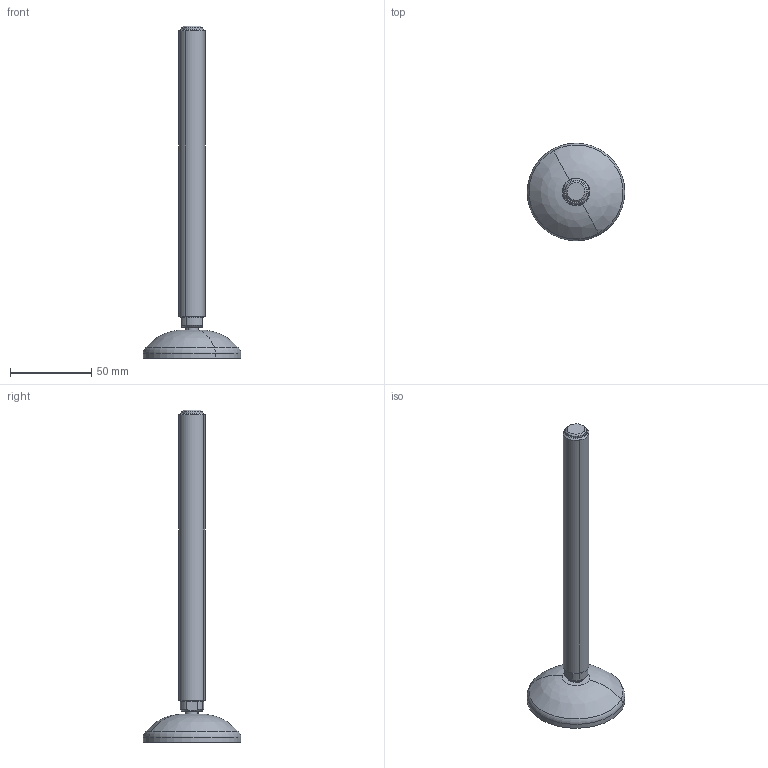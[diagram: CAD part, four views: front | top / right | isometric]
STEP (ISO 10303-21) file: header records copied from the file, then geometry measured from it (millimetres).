
FILE_DESCRIPTION(('CATIA V5 STEP Exchange'),'2;1');
FILE_NAME('C:\Users\dentellad\Desktop\P90803_02.stp','2017-04-07T14:13:17+00:00',('none'),('none'),'Version 5-6 Release 2012','CATIA V5 STEP AP203','none');
FILE_SCHEMA(('CONFIG_CONTROL_DESIGN'));
Length unit declared in the file: millimetre
Products named in the file (1): Product1
Assembly tree (2 placements, depth 2):
  Product1
    #58
    #17876
Bounding box: 59.98 x 59.98 x 204 mm (x, y, z)
Volume: 53899.5 mm3; surface area: 20880.2 mm2
Topology: 2 solids, 2 shells, 561 faces, 1598 edges, 1047 vertices
Faces by surface type: plane 464, torus 30, cylinder 24, revolution 19, sphere 16, cone 8
Entity records: 18516 total; most frequent: CARTESIAN_POINT 6209, ORIENTED_EDGE 3184, EDGE_CURVE 1592, DIRECTION 1547, VERTEX_POINT 1047, B_SPLINE_CURVE_WITH_KNOTS 993, AXIS2_PLACEMENT_3D 619, EDGE_LOOP 573
